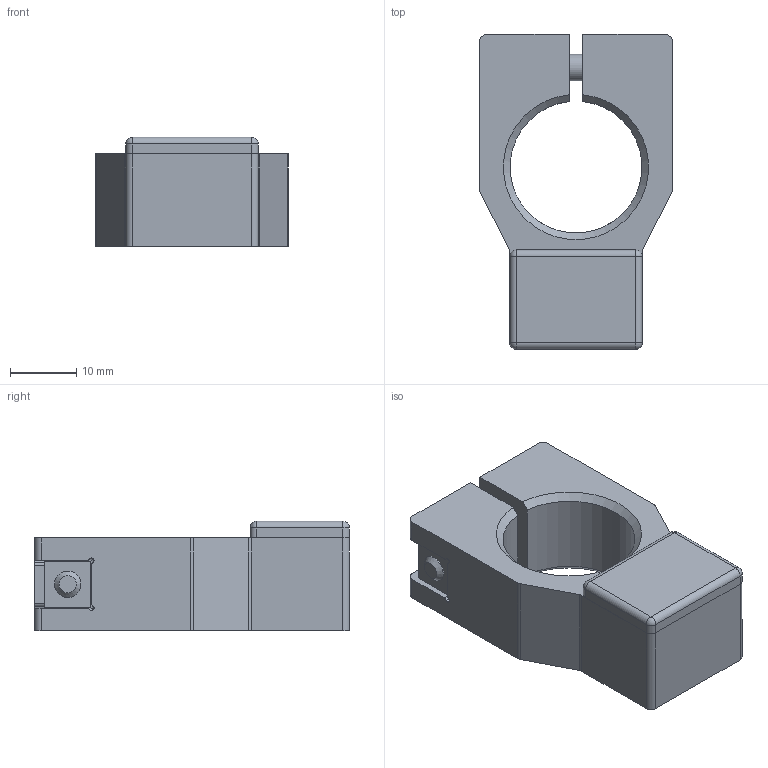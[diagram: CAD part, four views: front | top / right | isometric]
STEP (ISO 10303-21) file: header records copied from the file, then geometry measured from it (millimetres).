
FILE_DESCRIPTION (( 'STEP AP214' ), '1' );
FILE_NAME ('2980.STEP', '2024-10-04T19:44:06', ( '' ), ( '' ), 'SwSTEP 2.0', 'SolidWorks 2022', '' );
FILE_SCHEMA (( 'AUTOMOTIVE_DESIGN' ));
Length unit declared in the file: millimetre
Products named in the file (1): 2980
Bounding box: 29 x 47.5 x 16.5 mm (x, y, z)
Volume: 11399.3 mm3; surface area: 7977.7 mm2
Topology: 5 solids, 5 shells, 258 faces, 614 edges, 398 vertices
Faces by surface type: bspline 90, cylinder 81, plane 64, cone 15, torus 4, sphere 4
Full cylindrical faces by diameter (mm): 3.3 x13, 4 x1, 4.1 x4, 4.3 x1, 4.5 x6, 7 x2, 8 x1
Entity records: 19500 total; most frequent: CARTESIAN_POINT 14392, ORIENTED_EDGE 1116, DIRECTION 737, EDGE_CURVE 558, VERTEX_POINT 391, EDGE_LOOP 355, AXIS2_PLACEMENT_3D 300, FACE_OUTER_BOUND 290
